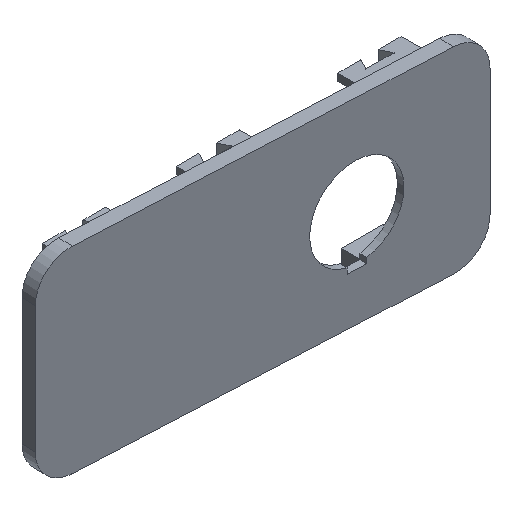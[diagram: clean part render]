
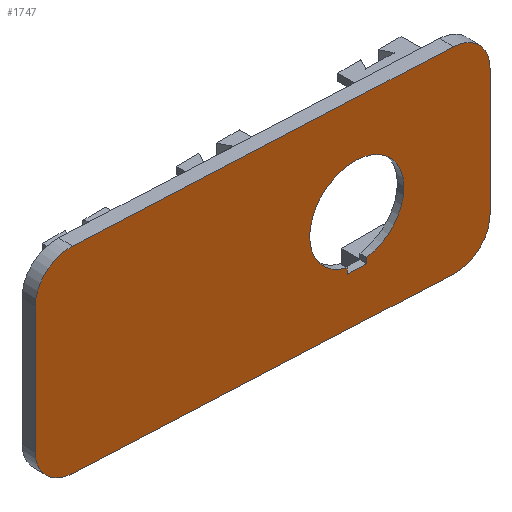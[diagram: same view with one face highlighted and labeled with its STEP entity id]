
A CAD part, isometric view. The second image highlights one B-rep face of the part: STEP entity #1747.
In plain terms, the highlighted planar face has unit normal (-0.049, -0.999, 0).
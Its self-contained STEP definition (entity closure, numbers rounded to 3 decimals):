
#20=FACE_BOUND('',#150,.T.);
#22=CIRCLE('',#1841,12.8);
#26=CIRCLE('',#1850,10.);
#30=CIRCLE('',#1857,10.);
#31=CIRCLE('',#1861,10.);
#32=CIRCLE('',#1864,10.);
#53=FACE_OUTER_BOUND('',#149,.T.);
#149=EDGE_LOOP('',(#1272,#1273,#1274,#1275,#1276,#1277,#1278,#1279));
#150=EDGE_LOOP('',(#1280,#1281,#1282,#1283));
#229=LINE('',#2400,#472);
#234=LINE('',#2413,#477);
#236=LINE('',#2416,#479);
#242=LINE('',#2438,#485);
#296=LINE('',#2554,#539);
#297=LINE('',#2557,#540);
#300=LINE('',#2565,#543);
#472=VECTOR('',#1947,10.);
#477=VECTOR('',#1960,10.);
#479=VECTOR('',#1964,10.);
#485=VECTOR('',#1986,10.);
#539=VECTOR('',#2054,10.);
#540=VECTOR('',#2057,10.);
#543=VECTOR('',#2066,10.);
#715=VERTEX_POINT('',#2397);
#716=VERTEX_POINT('',#2399);
#718=VERTEX_POINT('',#2405);
#720=VERTEX_POINT('',#2411);
#725=VERTEX_POINT('',#2428);
#726=VERTEX_POINT('',#2430);
#728=VERTEX_POINT('',#2436);
#782=VERTEX_POINT('',#2548);
#783=VERTEX_POINT('',#2552);
#784=VERTEX_POINT('',#2556);
#785=VERTEX_POINT('',#2560);
#786=VERTEX_POINT('',#2564);
#885=EDGE_CURVE('',#716,#715,#229,.T.);
#888=EDGE_CURVE('',#718,#716,#22,.T.);
#892=EDGE_CURVE('',#715,#720,#234,.T.);
#894=EDGE_CURVE('',#720,#718,#236,.T.);
#900=EDGE_CURVE('',#725,#726,#26,.T.);
#904=EDGE_CURVE('',#725,#728,#242,.T.);
#959=EDGE_CURVE('',#782,#728,#30,.T.);
#962=EDGE_CURVE('',#782,#783,#296,.T.);
#963=EDGE_CURVE('',#784,#726,#297,.T.);
#965=EDGE_CURVE('',#784,#785,#31,.T.);
#967=EDGE_CURVE('',#786,#785,#300,.T.);
#990=EDGE_CURVE('',#783,#786,#32,.T.);
#1272=ORIENTED_EDGE('',*,*,#900,.F.);
#1273=ORIENTED_EDGE('',*,*,#904,.T.);
#1274=ORIENTED_EDGE('',*,*,#959,.F.);
#1275=ORIENTED_EDGE('',*,*,#962,.T.);
#1276=ORIENTED_EDGE('',*,*,#990,.T.);
#1277=ORIENTED_EDGE('',*,*,#967,.T.);
#1278=ORIENTED_EDGE('',*,*,#965,.F.);
#1279=ORIENTED_EDGE('',*,*,#963,.T.);
#1280=ORIENTED_EDGE('',*,*,#885,.T.);
#1281=ORIENTED_EDGE('',*,*,#892,.T.);
#1282=ORIENTED_EDGE('',*,*,#894,.T.);
#1283=ORIENTED_EDGE('',*,*,#888,.T.);
#1657=PLANE('',#1863);
#1747=ADVANCED_FACE('',(#53,#20),#1657,.F.);
#1841=AXIS2_PLACEMENT_3D('',#2406,#1953,#1954);
#1850=AXIS2_PLACEMENT_3D('',#2431,#1979,#1980);
#1857=AXIS2_PLACEMENT_3D('',#2549,#2048,#2049);
#1861=AXIS2_PLACEMENT_3D('',#2561,#2061,#2062);
#1863=AXIS2_PLACEMENT_3D('',#2606,#2089,#2090);
#1864=AXIS2_PLACEMENT_3D('',#2607,#2091,#2092);
#1947=DIRECTION('',(0.,0.,-1.));
#1953=DIRECTION('center_axis',(0.049,0.999,0.));
#1954=DIRECTION('ref_axis',(0.,0.,-1.));
#1960=DIRECTION('',(-0.999,0.049,0.));
#1964=DIRECTION('',(0.,0.,1.));
#1979=DIRECTION('center_axis',(0.049,0.999,0.));
#1980=DIRECTION('ref_axis',(0.706,-0.035,0.707));
#1986=DIRECTION('',(-0.999,0.049,0.));
#2048=DIRECTION('center_axis',(0.049,0.999,0.));
#2049=DIRECTION('ref_axis',(-0.706,0.035,0.707));
#2054=DIRECTION('',(0.,0.,-1.));
#2057=DIRECTION('',(0.,0.,1.));
#2061=DIRECTION('center_axis',(0.049,0.999,0.));
#2062=DIRECTION('ref_axis',(0.706,-0.035,-0.707));
#2066=DIRECTION('',(0.999,-0.049,0.));
#2089=DIRECTION('center_axis',(0.049,0.999,0.));
#2090=DIRECTION('ref_axis',(0.,0.,1.));
#2091=DIRECTION('center_axis',(-0.049,-0.999,0.));
#2092=DIRECTION('ref_axis',(-0.706,0.035,-0.707));
#2397=CARTESIAN_POINT('',(27.098,-12.109,85.959));
#2399=CARTESIAN_POINT('',(27.098,-12.109,87.479));
#2400=CARTESIAN_POINT('',(27.098,-12.109,92.979));
#2405=CARTESIAN_POINT('',(21.79,-11.85,87.479));
#2406=CARTESIAN_POINT('Origin',(24.444,-11.979,100.));
#2411=CARTESIAN_POINT('',(21.79,-11.85,85.959));
#2413=CARTESIAN_POINT('',(10.603,-11.302,85.959));
#2416=CARTESIAN_POINT('',(21.79,-11.85,93.739));
#2428=CARTESIAN_POINT('',(50.556,-13.256,128.25));
#2430=CARTESIAN_POINT('',(60.544,-13.745,118.25));
#2431=CARTESIAN_POINT('Origin',(50.556,-13.256,118.25));
#2436=CARTESIAN_POINT('',(-52.721,-8.205,128.25));
#2438=CARTESIAN_POINT('',(60.344,-13.735,128.25));
#2548=CARTESIAN_POINT('',(-62.709,-7.717,118.25));
#2549=CARTESIAN_POINT('Origin',(-52.721,-8.205,118.25));
#2552=CARTESIAN_POINT('',(-62.709,-7.717,82.25));
#2554=CARTESIAN_POINT('',(-62.709,-7.717,128.75));
#2556=CARTESIAN_POINT('',(60.544,-13.745,82.25));
#2557=CARTESIAN_POINT('',(60.544,-13.745,72.25));
#2560=CARTESIAN_POINT('',(50.556,-13.256,72.25));
#2561=CARTESIAN_POINT('Origin',(50.556,-13.256,82.25));
#2564=CARTESIAN_POINT('',(-52.721,-8.205,72.25));
#2565=CARTESIAN_POINT('',(-63.508,-7.678,72.25));
#2606=CARTESIAN_POINT('Origin',(-0.583,-10.755,100.));
#2607=CARTESIAN_POINT('Origin',(-52.721,-8.205,82.25));
